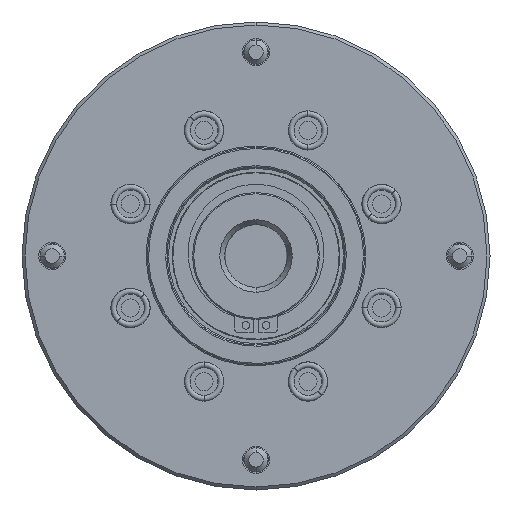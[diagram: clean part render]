
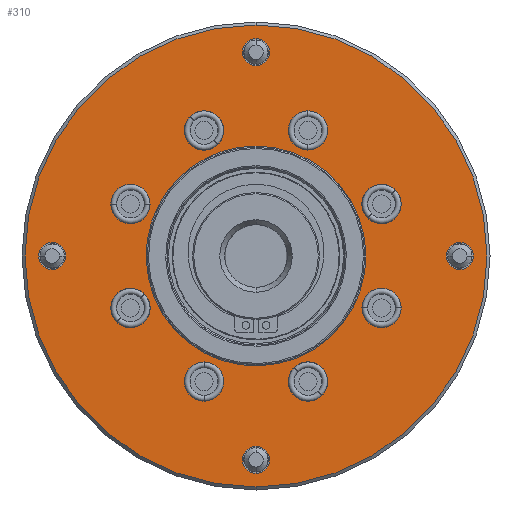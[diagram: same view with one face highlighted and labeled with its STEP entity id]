
A CAD part, front view. The second image highlights one B-rep face of the part: STEP entity #310.
In plain terms, the highlighted planar face has unit normal (0, -1, 0).
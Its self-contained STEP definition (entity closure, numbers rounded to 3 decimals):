
#16=CARTESIAN_POINT('',(0.0,2.5,36.4));
#17=VERTEX_POINT('',#16);
#18=CARTESIAN_POINT('',(34.618,2.5,-11.248));
#19=VERTEX_POINT('',#18);
#20=CARTESIAN_POINT('',(0.0,2.5,0.0));
#21=DIRECTION('',(0.0,1.0,0.0));
#22=DIRECTION('',(0.0,0.0,1.0));
#23=AXIS2_PLACEMENT_3D('',#20,#21,#22);
#24=CIRCLE('',#23,36.4);
#25=EDGE_CURVE('no 841',#17,#19,#24,.T.);
#26=ORIENTED_EDGE('',*,*,#25,.T.);
#27=CARTESIAN_POINT('',(-34.618,2.5,11.248));
#28=VERTEX_POINT('',#27);
#29=CARTESIAN_POINT('',(0.0,2.5,0.0));
#30=DIRECTION('',(0.0,1.0,0.0));
#31=DIRECTION('',(0.0,0.0,1.0));
#32=AXIS2_PLACEMENT_3D('',#29,#30,#31);
#33=CIRCLE('',#32,36.4);
#34=EDGE_CURVE('no 847',#19,#28,#33,.T.);
#35=ORIENTED_EDGE('',*,*,#34,.T.);
#36=CARTESIAN_POINT('',(0.0,2.5,0.0));
#37=DIRECTION('',(0.0,1.0,0.0));
#38=DIRECTION('',(0.0,0.0,1.0));
#39=AXIS2_PLACEMENT_3D('',#36,#37,#38);
#40=CIRCLE('',#39,36.4);
#41=EDGE_CURVE('no 851',#28,#17,#40,.T.);
#42=ORIENTED_EDGE('',*,*,#41,.T.);
#43=EDGE_LOOP('',(#26,#35,#42));
#44=FACE_BOUND('',#43,.T.);
#45=CARTESIAN_POINT('',(0.0,2.5,76.5));
#46=VERTEX_POINT('',#45);
#47=CARTESIAN_POINT('',(0.0,2.5,-76.5));
#48=VERTEX_POINT('',#47);
#49=CARTESIAN_POINT('',(0.0,2.5,0.0));
#50=DIRECTION('',(0.0,-1.0,0.0));
#51=DIRECTION('',(0.0,0.0,1.0));
#52=AXIS2_PLACEMENT_3D('',#49,#50,#51);
#53=CIRCLE('',#52,76.5);
#54=EDGE_CURVE('no 860',#46,#48,#53,.T.);
#55=ORIENTED_EDGE('',*,*,#54,.T.);
#56=CARTESIAN_POINT('',(0.0,2.5,0.0));
#57=DIRECTION('',(0.0,-1.0,0.0));
#58=DIRECTION('',(0.0,0.0,1.0));
#59=AXIS2_PLACEMENT_3D('',#56,#57,#58);
#60=CIRCLE('',#59,76.5);
#61=EDGE_CURVE('no 864',#48,#46,#60,.T.);
#62=ORIENTED_EDGE('',*,*,#61,.T.);
#63=EDGE_LOOP('',(#55,#62));
#64=FACE_OUTER_BOUND('',#63,.T.);
#65=CARTESIAN_POINT('',(41.575,2.5,-10.721));
#66=VERTEX_POINT('',#65);
#67=CARTESIAN_POINT('',(41.575,2.5,-23.721));
#68=VERTEX_POINT('',#67);
#69=CARTESIAN_POINT('',(41.575,2.5,-17.221));
#70=DIRECTION('',(0.0,-1.0,0.0));
#71=DIRECTION('',(0.0,0.0,-1.0));
#72=AXIS2_PLACEMENT_3D('',#69,#70,#71);
#73=CIRCLE('',#72,6.5);
#74=EDGE_CURVE('no 873',#66,#68,#73,.T.);
#75=ORIENTED_EDGE('',*,*,#74,.F.);
#76=CARTESIAN_POINT('',(41.575,2.5,-17.221));
#77=DIRECTION('',(0.0,-1.0,0.0));
#78=DIRECTION('',(0.0,0.0,-1.0));
#79=AXIS2_PLACEMENT_3D('',#76,#77,#78);
#80=CIRCLE('',#79,6.5);
#81=EDGE_CURVE('no 877',#68,#66,#80,.T.);
#82=ORIENTED_EDGE('',*,*,#81,.F.);
#83=EDGE_LOOP('',(#75,#82));
#84=FACE_BOUND('',#83,.T.);
#85=CARTESIAN_POINT('',(17.221,2.5,-35.075));
#86=VERTEX_POINT('',#85);
#87=CARTESIAN_POINT('',(17.221,2.5,-48.075));
#88=VERTEX_POINT('',#87);
#89=CARTESIAN_POINT('',(17.221,2.5,-41.575));
#90=DIRECTION('',(0.0,-1.0,0.0));
#91=DIRECTION('',(0.0,0.0,-1.0));
#92=AXIS2_PLACEMENT_3D('',#89,#90,#91);
#93=CIRCLE('',#92,6.5);
#94=EDGE_CURVE('no 886',#86,#88,#93,.T.);
#95=ORIENTED_EDGE('',*,*,#94,.F.);
#96=CARTESIAN_POINT('',(17.221,2.5,-41.575));
#97=DIRECTION('',(0.0,-1.0,0.0));
#98=DIRECTION('',(0.0,0.0,-1.0));
#99=AXIS2_PLACEMENT_3D('',#96,#97,#98);
#100=CIRCLE('',#99,6.5);
#101=EDGE_CURVE('no 890',#88,#86,#100,.T.);
#102=ORIENTED_EDGE('',*,*,#101,.F.);
#103=EDGE_LOOP('',(#95,#102));
#104=FACE_BOUND('',#103,.T.);
#105=CARTESIAN_POINT('',(-17.221,2.5,-35.075));
#106=VERTEX_POINT('',#105);
#107=CARTESIAN_POINT('',(-17.221,2.5,-48.075));
#108=VERTEX_POINT('',#107);
#109=CARTESIAN_POINT('',(-17.221,2.5,-41.575));
#110=DIRECTION('',(0.0,-1.0,0.0));
#111=DIRECTION('',(0.0,0.0,-1.0));
#112=AXIS2_PLACEMENT_3D('',#109,#110,#111);
#113=CIRCLE('',#112,6.5);
#114=EDGE_CURVE('no 899',#106,#108,#113,.T.);
#115=ORIENTED_EDGE('',*,*,#114,.F.);
#116=CARTESIAN_POINT('',(-17.221,2.5,-41.575));
#117=DIRECTION('',(0.0,-1.0,0.0));
#118=DIRECTION('',(0.0,0.0,-1.0));
#119=AXIS2_PLACEMENT_3D('',#116,#117,#118);
#120=CIRCLE('',#119,6.5);
#121=EDGE_CURVE('no 903',#108,#106,#120,.T.);
#122=ORIENTED_EDGE('',*,*,#121,.F.);
#123=EDGE_LOOP('',(#115,#122));
#124=FACE_BOUND('',#123,.T.);
#125=CARTESIAN_POINT('',(-41.575,2.5,-10.721));
#126=VERTEX_POINT('',#125);
#127=CARTESIAN_POINT('',(-41.575,2.5,-23.721));
#128=VERTEX_POINT('',#127);
#129=CARTESIAN_POINT('',(-41.575,2.5,-17.221));
#130=DIRECTION('',(0.0,-1.0,0.0));
#131=DIRECTION('',(0.0,0.0,-1.0));
#132=AXIS2_PLACEMENT_3D('',#129,#130,#131);
#133=CIRCLE('',#132,6.5);
#134=EDGE_CURVE('no 912',#126,#128,#133,.T.);
#135=ORIENTED_EDGE('',*,*,#134,.F.);
#136=CARTESIAN_POINT('',(-41.575,2.5,-17.221));
#137=DIRECTION('',(0.0,-1.0,0.0));
#138=DIRECTION('',(0.0,0.0,-1.0));
#139=AXIS2_PLACEMENT_3D('',#136,#137,#138);
#140=CIRCLE('',#139,6.5);
#141=EDGE_CURVE('no 916',#128,#126,#140,.T.);
#142=ORIENTED_EDGE('',*,*,#141,.F.);
#143=EDGE_LOOP('',(#135,#142));
#144=FACE_BOUND('',#143,.T.);
#145=CARTESIAN_POINT('',(-41.575,2.5,23.721));
#146=VERTEX_POINT('',#145);
#147=CARTESIAN_POINT('',(-41.575,2.5,10.721));
#148=VERTEX_POINT('',#147);
#149=CARTESIAN_POINT('',(-41.575,2.5,17.221));
#150=DIRECTION('',(0.0,-1.0,0.0));
#151=DIRECTION('',(0.0,0.0,-1.0));
#152=AXIS2_PLACEMENT_3D('',#149,#150,#151);
#153=CIRCLE('',#152,6.5);
#154=EDGE_CURVE('no 925',#146,#148,#153,.T.);
#155=ORIENTED_EDGE('',*,*,#154,.F.);
#156=CARTESIAN_POINT('',(-41.575,2.5,17.221));
#157=DIRECTION('',(0.0,-1.0,0.0));
#158=DIRECTION('',(0.0,0.0,-1.0));
#159=AXIS2_PLACEMENT_3D('',#156,#157,#158);
#160=CIRCLE('',#159,6.5);
#161=EDGE_CURVE('no 929',#148,#146,#160,.T.);
#162=ORIENTED_EDGE('',*,*,#161,.F.);
#163=EDGE_LOOP('',(#155,#162));
#164=FACE_BOUND('',#163,.T.);
#165=CARTESIAN_POINT('',(-17.221,2.5,48.075));
#166=VERTEX_POINT('',#165);
#167=CARTESIAN_POINT('',(-17.221,2.5,35.075));
#168=VERTEX_POINT('',#167);
#169=CARTESIAN_POINT('',(-17.221,2.5,41.575));
#170=DIRECTION('',(0.0,-1.0,0.0));
#171=DIRECTION('',(0.0,0.0,-1.0));
#172=AXIS2_PLACEMENT_3D('',#169,#170,#171);
#173=CIRCLE('',#172,6.5);
#174=EDGE_CURVE('no 938',#166,#168,#173,.T.);
#175=ORIENTED_EDGE('',*,*,#174,.F.);
#176=CARTESIAN_POINT('',(-17.221,2.5,41.575));
#177=DIRECTION('',(0.0,-1.0,0.0));
#178=DIRECTION('',(0.0,0.0,-1.0));
#179=AXIS2_PLACEMENT_3D('',#176,#177,#178);
#180=CIRCLE('',#179,6.5);
#181=EDGE_CURVE('no 942',#168,#166,#180,.T.);
#182=ORIENTED_EDGE('',*,*,#181,.F.);
#183=EDGE_LOOP('',(#175,#182));
#184=FACE_BOUND('',#183,.T.);
#185=CARTESIAN_POINT('',(17.221,2.5,48.075));
#186=VERTEX_POINT('',#185);
#187=CARTESIAN_POINT('',(17.221,2.5,35.075));
#188=VERTEX_POINT('',#187);
#189=CARTESIAN_POINT('',(17.221,2.5,41.575));
#190=DIRECTION('',(0.0,-1.0,0.0));
#191=DIRECTION('',(0.0,0.0,-1.0));
#192=AXIS2_PLACEMENT_3D('',#189,#190,#191);
#193=CIRCLE('',#192,6.5);
#194=EDGE_CURVE('no 951',#186,#188,#193,.T.);
#195=ORIENTED_EDGE('',*,*,#194,.F.);
#196=CARTESIAN_POINT('',(17.221,2.5,41.575));
#197=DIRECTION('',(0.0,-1.0,0.0));
#198=DIRECTION('',(0.0,0.0,-1.0));
#199=AXIS2_PLACEMENT_3D('',#196,#197,#198);
#200=CIRCLE('',#199,6.5);
#201=EDGE_CURVE('no 955',#188,#186,#200,.T.);
#202=ORIENTED_EDGE('',*,*,#201,.F.);
#203=EDGE_LOOP('',(#195,#202));
#204=FACE_BOUND('',#203,.T.);
#205=CARTESIAN_POINT('',(67.498,2.5,4.5));
#206=VERTEX_POINT('',#205);
#207=CARTESIAN_POINT('',(67.498,2.5,-4.5));
#208=VERTEX_POINT('',#207);
#209=CARTESIAN_POINT('',(67.498,2.5,0.0));
#210=DIRECTION('',(0.0,-1.0,0.0));
#211=DIRECTION('',(0.0,0.0,-1.0));
#212=AXIS2_PLACEMENT_3D('',#209,#210,#211);
#213=CIRCLE('',#212,4.5);
#214=EDGE_CURVE('no 964',#206,#208,#213,.T.);
#215=ORIENTED_EDGE('',*,*,#214,.F.);
#216=CARTESIAN_POINT('',(67.498,2.5,0.0));
#217=DIRECTION('',(0.0,-1.0,0.0));
#218=DIRECTION('',(0.0,0.0,-1.0));
#219=AXIS2_PLACEMENT_3D('',#216,#217,#218);
#220=CIRCLE('',#219,4.5);
#221=EDGE_CURVE('no 968',#208,#206,#220,.T.);
#222=ORIENTED_EDGE('',*,*,#221,.F.);
#223=EDGE_LOOP('',(#215,#222));
#224=FACE_BOUND('',#223,.T.);
#225=CARTESIAN_POINT('',(-67.498,2.5,4.5));
#226=VERTEX_POINT('',#225);
#227=CARTESIAN_POINT('',(-67.498,2.5,-4.5));
#228=VERTEX_POINT('',#227);
#229=CARTESIAN_POINT('',(-67.498,2.5,0.0));
#230=DIRECTION('',(0.0,-1.0,0.0));
#231=DIRECTION('',(0.0,0.0,-1.0));
#232=AXIS2_PLACEMENT_3D('',#229,#230,#231);
#233=CIRCLE('',#232,4.5);
#234=EDGE_CURVE('no 977',#226,#228,#233,.T.);
#235=ORIENTED_EDGE('',*,*,#234,.F.);
#236=CARTESIAN_POINT('',(-67.498,2.5,0.0));
#237=DIRECTION('',(0.0,-1.0,0.0));
#238=DIRECTION('',(0.0,0.0,-1.0));
#239=AXIS2_PLACEMENT_3D('',#236,#237,#238);
#240=CIRCLE('',#239,4.5);
#241=EDGE_CURVE('no 981',#228,#226,#240,.T.);
#242=ORIENTED_EDGE('',*,*,#241,.F.);
#243=EDGE_LOOP('',(#235,#242));
#244=FACE_BOUND('',#243,.T.);
#245=CARTESIAN_POINT('',(0.0,2.5,71.998));
#246=VERTEX_POINT('',#245);
#247=CARTESIAN_POINT('',(0.0,2.5,62.998));
#248=VERTEX_POINT('',#247);
#249=CARTESIAN_POINT('',(0.0,2.5,67.498));
#250=DIRECTION('',(0.0,-1.0,0.0));
#251=DIRECTION('',(0.0,0.0,-1.0));
#252=AXIS2_PLACEMENT_3D('',#249,#250,#251);
#253=CIRCLE('',#252,4.5);
#254=EDGE_CURVE('no 990',#246,#248,#253,.T.);
#255=ORIENTED_EDGE('',*,*,#254,.F.);
#256=CARTESIAN_POINT('',(0.0,2.5,67.498));
#257=DIRECTION('',(0.0,-1.0,0.0));
#258=DIRECTION('',(0.0,0.0,-1.0));
#259=AXIS2_PLACEMENT_3D('',#256,#257,#258);
#260=CIRCLE('',#259,4.5);
#261=EDGE_CURVE('no 994',#248,#246,#260,.T.);
#262=ORIENTED_EDGE('',*,*,#261,.F.);
#263=EDGE_LOOP('',(#255,#262));
#264=FACE_BOUND('',#263,.T.);
#265=CARTESIAN_POINT('',(0.0,2.5,-62.998));
#266=VERTEX_POINT('',#265);
#267=CARTESIAN_POINT('',(0.0,2.5,-71.998));
#268=VERTEX_POINT('',#267);
#269=CARTESIAN_POINT('',(0.0,2.5,-67.498));
#270=DIRECTION('',(0.0,-1.0,0.0));
#271=DIRECTION('',(0.0,0.0,-1.0));
#272=AXIS2_PLACEMENT_3D('',#269,#270,#271);
#273=CIRCLE('',#272,4.5);
#274=EDGE_CURVE('no 1003',#266,#268,#273,.T.);
#275=ORIENTED_EDGE('',*,*,#274,.F.);
#276=CARTESIAN_POINT('',(0.0,2.5,-67.498));
#277=DIRECTION('',(0.0,-1.0,0.0));
#278=DIRECTION('',(0.0,0.0,-1.0));
#279=AXIS2_PLACEMENT_3D('',#276,#277,#278);
#280=CIRCLE('',#279,4.5);
#281=EDGE_CURVE('no 1007',#268,#266,#280,.T.);
#282=ORIENTED_EDGE('',*,*,#281,.F.);
#283=EDGE_LOOP('',(#275,#282));
#284=FACE_BOUND('',#283,.T.);
#285=CARTESIAN_POINT('',(41.575,2.5,23.721));
#286=VERTEX_POINT('',#285);
#287=CARTESIAN_POINT('',(41.575,2.5,10.721));
#288=VERTEX_POINT('',#287);
#289=CARTESIAN_POINT('',(41.575,2.5,17.221));
#290=DIRECTION('',(0.0,-1.0,0.0));
#291=DIRECTION('',(0.0,0.0,-1.0));
#292=AXIS2_PLACEMENT_3D('',#289,#290,#291);
#293=CIRCLE('',#292,6.5);
#294=EDGE_CURVE('no 1016',#286,#288,#293,.T.);
#295=ORIENTED_EDGE('',*,*,#294,.F.);
#296=CARTESIAN_POINT('',(41.575,2.5,17.221));
#297=DIRECTION('',(0.0,-1.0,0.0));
#298=DIRECTION('',(0.0,0.0,-1.0));
#299=AXIS2_PLACEMENT_3D('',#296,#297,#298);
#300=CIRCLE('',#299,6.5);
#301=EDGE_CURVE('no 1020',#288,#286,#300,.T.);
#302=ORIENTED_EDGE('',*,*,#301,.F.);
#303=EDGE_LOOP('',(#295,#302));
#304=FACE_BOUND('',#303,.T.);
#305=CARTESIAN_POINT('',(-36.0,2.5,0.0));
#306=DIRECTION('',(0.0,1.0,0.0));
#307=DIRECTION('',(0.0,0.0,1.0));
#308=AXIS2_PLACEMENT_3D('',#305,#306,#307);
#309=PLANE('',#308);
#310=ADVANCED_FACE('no 832',(#44,#64,#84,#104,#124,#144,#164,#184,#204,#224,
    #244,#264,#284,#304),#309,.F.);
